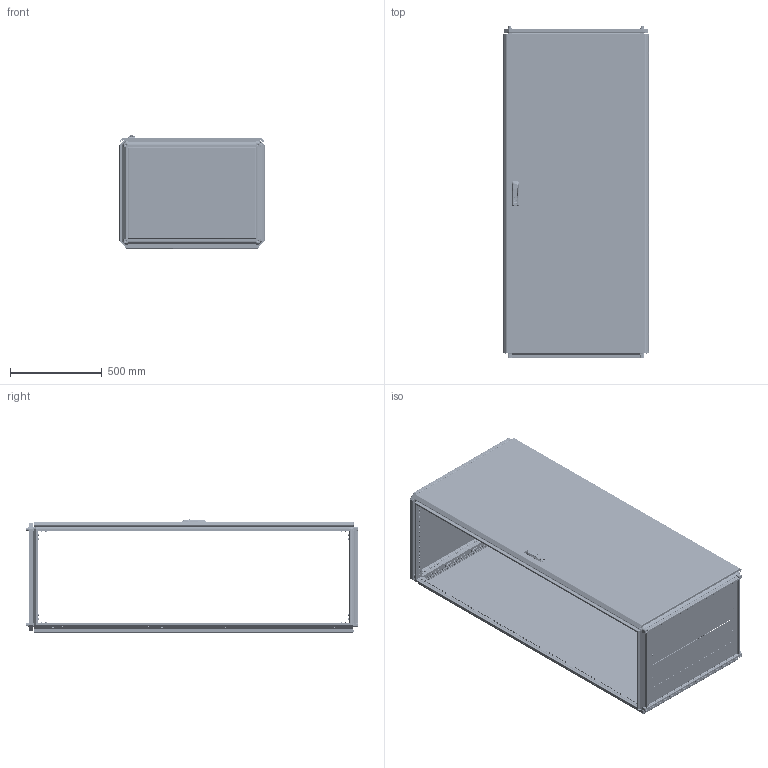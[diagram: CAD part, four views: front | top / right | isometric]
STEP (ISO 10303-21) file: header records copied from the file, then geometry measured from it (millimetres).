
FILE_DESCRIPTION (( 'STEP AP203' ), '1' );
FILE_NAME ('MA1.000.080618.10.00 AleSta1886 Øêàô AleSta 800õ600õ1800.STEP', '2024-08-23T08:15:17', ( '' ), ( '' ), 'SwSTEP 2.0', 'SolidWorks 2021', '' );
FILE_SCHEMA (( 'CONFIG_CONTROL_DESIGN' ));
Length unit declared in the file: millimetre
Products named in the file (50): MA1.200.060620.31.02 Ðåéêà íà äâåðü âåðòèêàëüíàÿ Â = 2000_‚=1800; MA1.200.060620.30.00 AleSta-D20M600 Äâåðü ñïëîøíàÿ äëÿ øêàôîâ ALESTA ÂõØ 2000õ600_1800å800; MA1.200.060620.11.01 Ïîëîòíî çàäíåé ïàíåëè 2000õ600_1800å800; Âèíò ñ âí. øåñòèãðàííèêîì M12 DIN912_•30; Øïèëüêà Ì6õ12_˜¯¨«ìª  Œ6å16; Âèíò_ðåçüáîâûäàâëèâàþùèé_Ì5õ12_DIN 7500E_00; Îñü ïåòëè 4õ52_‚¨­â A.M4x0,5x40 ƒŽ‘’ 11644-75; MA1.101.060620.20.01 Ïîëîòíî íèæíåé ïàíåëè 600õ600_800å600; Âèíò ñàìîíàðåçàþùèé ñ ïîòàéíîé ãîëîâêîé Ì5x14 DIN 7500 M TORX, êëàññ ïðî÷íîñòè 8.8, îöèíêîâàííàÿ ñòàëü_Œ5å14; Øïèëüêà Ì6õ12_˜¯¨«ìª  Œ6å12; MA1.101.060620.10.00 Êðûøà 600x600_800å600; MA1.101.060620.00.02 Ïðîôèëü ïîïåðå÷íûé ñâàðíîé_01 L=498 (˜=600); ﾇﾀﾊﾋﾅﾏﾊﾀ ﾃﾀﾅﾗﾍﾀﾟ ﾘﾅﾑﾒﾈﾃﾐﾀﾍﾍﾀﾟ ﾑ ﾓﾌﾅﾍﾜﾘﾅﾍﾍﾛﾌ ﾁﾎﾐﾒﾎﾌ M4 X 11 (0.5-2.5 ﾌﾌ) HEX U-S ﾖﾈﾍﾊ; Áîëò øåñòèãðàííûé Ì5õ12 DIN 933, êëàññ ïðî÷íîñòè 8.8, îöèíêîâàííàÿ ñòàëü; MA1.100.060620.00.01 Ñîåäèíèòåëü óãëîâîé_00; MA1.200.060620.11.00 Ïàíåëü çàäíÿÿ, äëÿ øêàôîâ AleSta, 2000x600_1800å800; Íàâåñêà íà êîðïóñ ïîä êëåïêó; 諘蜱齁罻 022 瀁錒瀔隮; Ïåòëÿ íà äâåðü ï-îáðàçíàÿ; Âèíò_ðåçüáîâûäàâëèâàþùèé_Ì5õ12_DIN 7500E_Œ5å12; Ïðîáêà ïëàñòèêîâàÿ óíèâåðñàëüíàÿ ïîä îòâåðñòèå 4,5 ìì, ñåðèÿ ST, öâåò áåñöâåòíûé – ST4,5; MA1.200.060620.31.00 Äâåðü ñïëîøíàÿ äëÿ øêàôîâ ALESTA ÂõØ 2000õ600_1800å800; Øàéáà ñòîïîðíàÿ ñ íàðóæíûìè çóáöàìè SCHNORR, òèï VS öèíêîâûå õëîïüÿ Ì6 O6,4 ART 88121_Œ6; ﾘ琺矜 01.019 ﾃﾎﾑﾒ11371-78_12; MA1.200.060620.31.01 Ïîëîòíî äâåðè ñïëîøíîé 2000õ600_1800å800; MA1.200.060620.31.05 Óãëîâîé óïîð äâåðíîé òÿãè; Âèíò ðåçüáîâûäàâëèâàþùèé Ì6õ12 DIN 7500E_Œ6å10; MA1.000.080618.10.00 AleSta1886 Øêàô AleSta 800õ600õ1800; òÿãà_lg001-2.STEP_‚ =1800; ﾘ琺矜 65ﾃ 019 ﾃﾎﾑﾒ 6402-70_12; MA1.102.060620.00.00 AleSta-VG2000 Ñòîéêè âåðòèêàëüíûå, Â=2000ìì  (4øò)_  800å600; Óïëîòíèòåëü ïàíåëè íèæíåé_800å600; Ãàéêà ñàìîêîíòðÿùàÿñÿ ñ íåéëîíîâîé âñòàâêîé Ì6 DIN 985, êëàññ ïðî÷íîñòè 8, îöèíêîâàííàÿ ñòàëü_Œ5; MA1.200.060620.31.04 ðèãåëü çàìêà äâåðè; MS463-2-3(1); Øïèëüêà Ì6õ12_˜¯¨«ìª  Œ6å20; MA1.101.060620.00.02 Ïðîôèëü ïîïåðå÷íûé ñâàðíîé_02 L=698 (˜=800) ; äåðæàòåëü_êðóãëîé_òÿãèRG002-RG1010-2-i-RG1010-3-.stp; Âèíò ñàìîíàðåçàþùèé ñ ïîòàéíîé ãîëîâêîé Ì5x14 DIN 7500 M TORX, êëàññ ïðî÷íîñòè 8.8, îöèíêîâàííàÿ ñòàëü_Œ5å12; MA1.102.060620.00.01 Ïðîôèëü âåðòèêàëüíûé ñâàðíîé_03 L=1698 (‚=1800)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
Assembly tree (337 placements, depth 4):
  Ïðîáêà ïëàñòèêîâàÿ óíèâåðñàëüíàÿ ïîä îòâåðñòèå 4,5 ìì, ñåðèÿ ST, öâåò áåñöâåòíûé – ST4,5
  MA1.000.080618.10.00 AleSta1886 Øêàô AleSta 800õ600õ1800
    MA1.101.060620.00.00 AleSta-RB66 Êîìïëåêò êðûøà è îñíîâàíèå_  800å600
      MA1.101.060620.00.02 Ïðîôèëü ïîïåðå÷íûé ñâàðíîé_01 L=498 (˜=600)  x4
      MA1.101.060620.00.02 Ïðîôèëü ïîïåðå÷íûé ñâàðíîé_02 L=698 (˜=800)   x4
      MA1.101.060620.10.00 Êðûøà 600x600_800å600
        MA1.101.060620.10.01 Ïîëîòíî êðûøè 600õ600_800x600
        Øïèëüêà Ì6õ12_˜¯¨«ìª  Œ6å12  x4
        Óïëîòíèòåëü ïàíåëè íèæíåé_800å600
      MA1.101.060620.20.00 Íèæíÿÿ ïàíåëü 600õ600_800å600
        MA1.101.060620.20.01 Ïîëîòíî íèæíåé ïàíåëè 600õ600_800å600
        ﾇﾀﾊﾋﾅﾏﾊﾀ ﾃﾀﾅﾗﾍﾀﾟ ﾘﾅﾑﾒﾈﾃﾐﾀﾍﾍﾀﾟ ﾑ ﾓﾌﾅﾍﾜﾘﾅﾍﾍﾛﾌ ﾁﾎﾐﾒﾎﾌ M4 X 11 (0.5-2.5 ﾌﾌ) HEX U-S ﾖﾈﾍﾊ  x4
        MA1.101.060620.20.02 Çàêðûòèå íèæíåé ïàíåëè 600õ600_800å600  x2
        7380-2 ISO Âèíòû ñ ïîëóêðóãëîé ãîëîâêîé ñ ôëàíöåì ñ âíóòðåííèì øåñòèãðàííèêîì Ì4õ10  x4
      Âèíò_ðåçüáîâûäàâëèâàþùèé_Ì5õ12_DIN 7500E_Œ5å12  x8
      MA1.100.060620.00.01 Ñîåäèíèòåëü óãëîâîé_00  x8
      Âèíò ñ âí. øåñòèãðàííèêîì M12 DIN912_•30  x4
      Âèíò ðåçüáîâûäàâëèâàþùèé Ì6õ12 DIN 7500E_Œ6å10  x96
      ﾘ琺矜 01.019 ﾃﾎﾑﾒ11371-78_12  x4
      ﾘ琺矜 65ﾃ 019 ﾃﾎﾑﾒ 6402-70_12  x4
      Øàéáà ñòîïîðíàÿ ñ íàðóæíûìè çóáöàìè SCHNORR, òèï VS öèíêîâûå õëîïüÿ Ì6 O6,4 ART 88121_Œ6  x80
    MA1.102.060620.00.00 AleSta-VG2000 Ñòîéêè âåðòèêàëüíûå, Â=2000ìì  (4øò)_  800å600
      MA1.102.060620.00.01 Ïðîôèëü âåðòèêàëüíûé ñâàðíîé_03 L=1698 (‚=1800)  x4
    MA1.200.060620.10.00 AleSta-PR206  Ïàíåëü çàäíÿÿ, äëÿ øêàôîâ ALESTA, 2000 x 600_1800å800
      MA1.200.060620.11.00 Ïàíåëü çàäíÿÿ, äëÿ øêàôîâ AleSta, 2000x600_1800å800
        MA1.200.060620.11.01 Ïîëîòíî çàäíåé ïàíåëè 2000õ600_1800å800
        Óïëîòíèòåëü ïàíåëè íèæíåé_ ‚=1800
        Øïèëüêà Ì6õ12_˜¯¨«ìª  Œ6å12  x4
      Âèíò ñàìîíàðåçàþùèé ñ ïîòàéíîé ãîëîâêîé Ì5x14 DIN 7500 M TORX, êëàññ ïðî÷íîñòè 8.8, îöèíêîâàííàÿ ñòàëü_Œ5å14  x8
    MA1.200.060620.30.00 AleSta-D20M600 Äâåðü ñïëîøíàÿ äëÿ øêàôîâ ALESTA ÂõØ 2000õ600_1800å800
      MA1.200.060620.31.00 Äâåðü ñïëîøíàÿ äëÿ øêàôîâ ALESTA ÂõØ 2000õ600_1800å800
        MA1.200.060620.31.01 Ïîëîòíî äâåðè ñïëîøíîé 2000õ600_1800å800
        Óïëîòíèòåëü ïàíåëè íèæíåé_ ‚=1800
        Øïèëüêà Ì6õ12_˜¯¨«ìª  Œ6å20  x16
        Øïèëüêà Ì6õ12_˜¯¨«ìª  Œ6å16  x4
        Ïåòëÿ íà äâåðü ï-îáðàçíàÿ  x4
      MA1.200.060620.31.03 Ðåéêà íà äâåðü ãîðèçîíòàëüíàÿ Ø = 600_˜=800  x2
      諘蜱齁罻 022 瀁錒瀔隮  x4
      MA1.200.060620.31.02 Ðåéêà íà äâåðü âåðòèêàëüíàÿ Â = 2000_‚=1800  x2
      äåðæàòåëü_êðóãëîé_òÿãèRG002-RG1010-2-i-RG1010-3-.stp  x2
      òÿãà_lg001-2.STEP_‚ =1800  x2
      êðåïëåíèå_êðóãëîé_òÿãè_RG1020-1.stp  x2
      MS463-2-3(1)
      Ãàéêà ñàìîêîíòðÿùàÿñÿ ñ íåéëîíîâîé âñòàâêîé Ì6 DIN 985, êëàññ ïðî÷íîñòè 8, îöèíêîâàííàÿ ñòàëü_Œ6  x16
      Ãàéêà ñàìîêîíòðÿùàÿñÿ ñ íåéëîíîâîé âñòàâêîé Ì6 DIN 985, êëàññ ïðî÷íîñòè 8, îöèíêîâàííàÿ ñòàëü_Œ5  x2
      Áîëò øåñòèãðàííûé Ì5õ12 DIN 933, êëàññ ïðî÷íîñòè 8.8, îöèíêîâàííàÿ ñòàëü  x2
      MA1.200.060620.31.04 ðèãåëü çàìêà äâåðè
      MA1.200.060620.31.05 Óãëîâîé óïîð äâåðíîé òÿãè  x2
      Âèíò_ðåçüáîâûäàâëèâàþùèé_Ì5õ12_DIN 7500E_00  x2
      Íàâåñêà íà êîðïóñ ïîä êëåïêó  x4
      Îñü ïåòëè 4õ52_‚¨­â A.M4x0,5x40 ƒŽ‘’ 11644-75  x4
      Âèíò ñàìîíàðåçàþùèé ñ ïîòàéíîé ãîëîâêîé Ì5x14 DIN 7500 M TORX, êëàññ ïðî÷íîñòè 8.8, îöèíêîâàííàÿ ñòàëü_Œ5å12  x8
Bounding box: 792 x 1810.9 x 616.8 mm (x, y, z)
Volume: 9979268.5 mm3; surface area: 12965850.4 mm2
Topology: 364 solids, 378 shells, 23819 faces, 61494 edges, 38504 vertices
Faces by surface type: plane 14249, cylinder 6877, bspline 921, cone 845, torus 829, sphere 98
Entity records: 249896 total; most frequent: CARTESIAN_POINT 80041, ORIENTED_EDGE 32498, DIRECTION 31968, EDGE_CURVE 16266, AXIS2_PLACEMENT_3D 10960, VERTEX_POINT 10141, LINE 10048, VECTOR 10048
